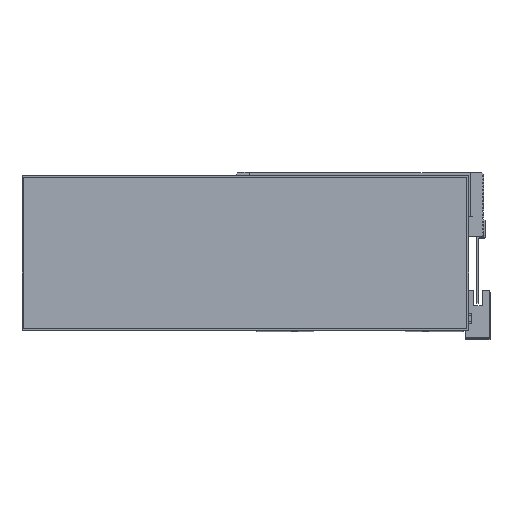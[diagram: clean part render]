
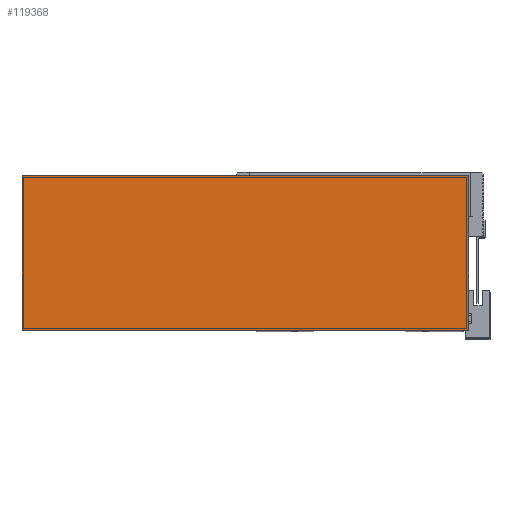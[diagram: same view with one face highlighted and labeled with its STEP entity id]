
A CAD part, top view. The second image highlights one B-rep face of the part: STEP entity #119368.
In plain terms, the highlighted planar face has unit normal (0, 0, 1) as drawn and (0, 0, -1) by its records, which use the part's own axes.
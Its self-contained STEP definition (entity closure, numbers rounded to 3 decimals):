
#1620 = CARTESIAN_POINT ( 'NONE',  ( 126.25, 43.75, -1. ) ) ;
#2169 = CARTESIAN_POINT ( 'NONE',  ( 126.25, 43.75, -1. ) ) ;
#3868 = LINE ( 'NONE', #53416, #115499 ) ;
#8367 = PLANE ( 'NONE',  #63036 ) ;
#12186 = CARTESIAN_POINT ( 'NONE',  ( 126.25, -43.75, -1. ) ) ;
#16534 = VECTOR ( 'NONE', #136362, 1000. ) ;
#19353 = DIRECTION ( 'NONE',  ( 0., 0., 1. ) ) ;
#21158 = DIRECTION ( 'NONE',  ( -1., 0., 0. ) ) ;
#21570 = EDGE_CURVE ( 'NONE', #83564, #123575, #102708, .T. ) ;
#21693 = VERTEX_POINT ( 'NONE', #12186 ) ;
#26235 = ORIENTED_EDGE ( 'NONE', *, *, #21570, .T. ) ;
#27996 = CARTESIAN_POINT ( 'NONE',  ( -126.25, -43.75, -1. ) ) ;
#39782 = CARTESIAN_POINT ( 'NONE',  ( 0., 0., -1. ) ) ;
#44446 = EDGE_CURVE ( 'NONE', #102096, #21693, #106090, .T. ) ;
#45885 = VECTOR ( 'NONE', #70361, 1000. ) ;
#51617 = CARTESIAN_POINT ( 'NONE',  ( -126.25, 43.75, -1. ) ) ;
#53416 = CARTESIAN_POINT ( 'NONE',  ( -126.25, -43.75, -1. ) ) ;
#54796 = EDGE_CURVE ( 'NONE', #123575, #102096, #128489, .T. ) ;
#63036 = AXIS2_PLACEMENT_3D ( 'NONE', #39782, #19353, #94912 ) ;
#63825 = EDGE_LOOP ( 'NONE', ( #26235, #74095, #77144, #84410 ) ) ;
#70361 = DIRECTION ( 'NONE',  ( 1., 0., 0. ) ) ;
#74095 = ORIENTED_EDGE ( 'NONE', *, *, #54796, .T. ) ;
#77144 = ORIENTED_EDGE ( 'NONE', *, *, #44446, .T. ) ;
#77433 = VECTOR ( 'NONE', #131156, 1000. ) ;
#83564 = VERTEX_POINT ( 'NONE', #27996 ) ;
#84410 = ORIENTED_EDGE ( 'NONE', *, *, #131360, .T. ) ;
#94912 = DIRECTION ( 'NONE',  ( 1., 0., 0. ) ) ;
#102096 = VERTEX_POINT ( 'NONE', #2169 ) ;
#102708 = LINE ( 'NONE', #125515, #16534 ) ;
#106090 = LINE ( 'NONE', #1620, #77433 ) ;
#109995 = FACE_OUTER_BOUND ( 'NONE', #63825, .T. ) ;
#115499 = VECTOR ( 'NONE', #21158, 1000. ) ;
#119368 = ADVANCED_FACE ( 'NONE', ( #109995 ), #8367, .F. ) ;
#123575 = VERTEX_POINT ( 'NONE', #51617 ) ;
#125515 = CARTESIAN_POINT ( 'NONE',  ( -126.25, 43.75, -1. ) ) ;
#128489 = LINE ( 'NONE', #134964, #45885 ) ;
#131156 = DIRECTION ( 'NONE',  ( 0., -1., 0. ) ) ;
#131360 = EDGE_CURVE ( 'NONE', #21693, #83564, #3868, .T. ) ;
#134964 = CARTESIAN_POINT ( 'NONE',  ( -126.25, 43.75, -1. ) ) ;
#136362 = DIRECTION ( 'NONE',  ( 0., 1., 0. ) ) ;
